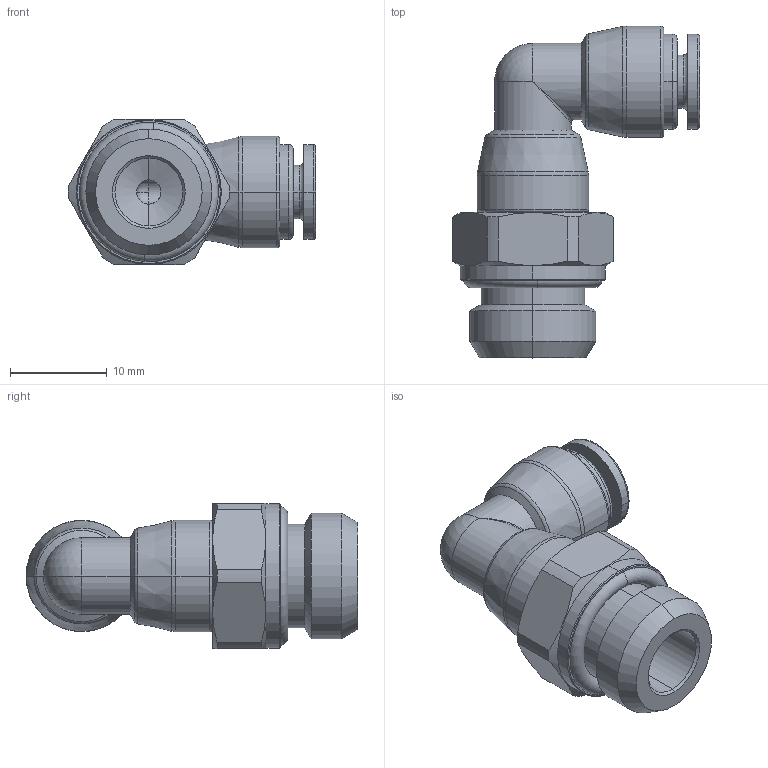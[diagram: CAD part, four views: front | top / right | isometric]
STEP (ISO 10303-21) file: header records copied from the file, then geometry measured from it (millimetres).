
FILE_DESCRIPTION (( 'STEP AP214' ), '1' );
FILE_NAME ('53117X0005A.STEP', '2024-05-09T14:23:47', ( '' ), ( '' ), 'SwSTEP 2.0', 'SolidWorks 2020', '' );
FILE_SCHEMA (( 'AUTOMOTIVE_DESIGN' ));
Length unit declared in the file: millimetre
Products named in the file (1): 53117X0005A
Bounding box: 25.5 x 34.25 x 15 mm (x, y, z)
Volume: 3770.5 mm3; surface area: 2735.2 mm2
Topology: 1 solids, 1 shells, 146 faces, 342 edges, 203 vertices
Faces by surface type: plane 41, cylinder 34, cone 30, torus 22, bspline 15, sphere 4
Entity records: 6336 total; most frequent: CARTESIAN_POINT 1455, DIRECTION 684, ORIENTED_EDGE 672, EDGE_CURVE 336, AXIS2_PLACEMENT_3D 270, VERTEX_POINT 203, EDGE_LOOP 159, UNCERTAINTY_MEASURE_WITH_UNIT 148
